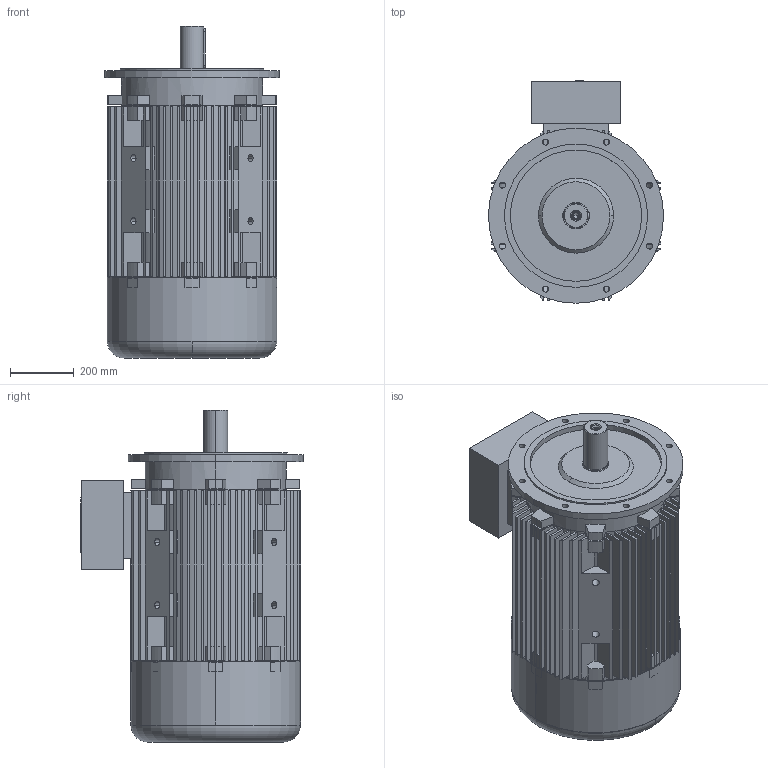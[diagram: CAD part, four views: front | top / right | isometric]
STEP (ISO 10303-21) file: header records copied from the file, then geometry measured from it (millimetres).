
FILE_DESCRIPTION (( 'STEP AP203' ), '1' );
FILE_NAME ('20.18377_B 7AZ 280S & M -4, -6 B5 STANDK.STEP', '2018-04-04T12:55:49', ( '' ), ( '' ), 'SwSTEP 2.0', 'SolidWorks 2017', '' );
FILE_SCHEMA (( 'CONFIG_CONTROL_DESIGN' ));
Length unit declared in the file: millimetre
Products named in the file (1): 20.18377_B  7AZ 280S & M -4, -6 B5 STANDK
Bounding box: 550 x 699 x 1043 mm (x, y, z)
Volume: 63011826.7 mm3; surface area: 8131017.8 mm2
Topology: 6 solids, 6 shells, 902 faces, 2459 edges, 1623 vertices
Faces by surface type: plane 701, cylinder 154, cone 34, bspline 9, torus 4
Entity records: 28583 total; most frequent: CARTESIAN_POINT 5232, ORIENTED_EDGE 4882, DIRECTION 4807, EDGE_CURVE 2441, VECTOR 1787, LINE 1787, VERTEX_POINT 1623, AXIS2_PLACEMENT_3D 1510
